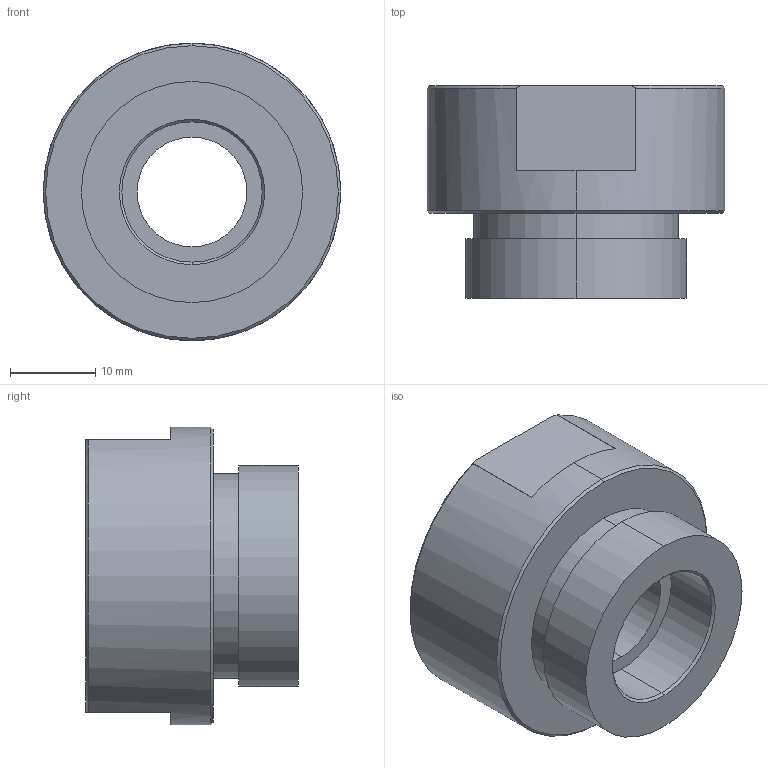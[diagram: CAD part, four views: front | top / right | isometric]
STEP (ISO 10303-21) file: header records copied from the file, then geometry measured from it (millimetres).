
FILE_DESCRIPTION (( 'STEP AP203' ), '1' );
FILE_NAME ('135MO-12.9.STEP', '2022-04-13T07:44:40', ( '' ), ( '' ), 'SwSTEP 2.0', 'SolidWorks 2015', '' );
FILE_SCHEMA (( 'CONFIG_CONTROL_DESIGN' ));
Length unit declared in the file: millimetre
Products named in the file (2): 135MO-12.9
Bounding box: 35 x 25 x 35 mm (x, y, z)
Volume: 15359.1 mm3; surface area: 5310 mm2
Topology: 1 solids, 1 shells, 29 faces, 68 edges, 44 vertices
Faces by surface type: plane 13, cylinder 10, cone 6
Entity records: 1007 total; most frequent: CARTESIAN_POINT 167, DIRECTION 152, ORIENTED_EDGE 136, EDGE_CURVE 68, AXIS2_PLACEMENT_3D 61, VERTEX_POINT 44, EDGE_LOOP 34, VECTOR 30
